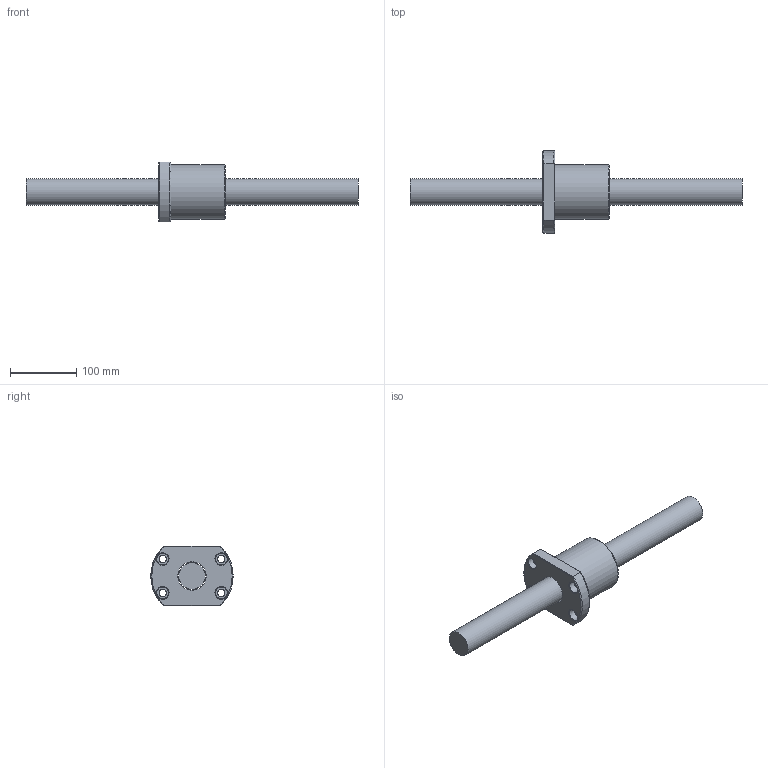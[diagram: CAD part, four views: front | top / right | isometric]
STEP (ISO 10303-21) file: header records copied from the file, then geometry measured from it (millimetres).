
FILE_DESCRIPTION (( 'STEP AP203' ), '1' );
FILE_NAME ('SFV04020D-2.7.step', '2024-05-20T03:39:45', ( '' ), ( '' ), 'SwSTEP 2.0', 'SolidWorks 2022', '' );
FILE_SCHEMA (( 'CONFIG_CONTROL_DESIGN' ));
Length unit declared in the file: millimetre
Products named in the file (1): SFV04020D-2.7
Bounding box: 500 x 124 x 90 mm (x, y, z)
Volume: 1084519 mm3; surface area: 126418.7 mm2
Topology: 2 solids, 2 shells, 54 faces, 140 edges, 91 vertices
Faces by surface type: cylinder 20, plane 16, cone 9, torus 5, bspline 4
Full cylindrical faces by diameter (mm): 4 x1, 7 x5, 11 x4, 17.5 x4, 40 x1, 42.8 x1, 82 x1
Entity records: 3189 total; most frequent: CARTESIAN_POINT 2103, DIRECTION 198, ORIENTED_EDGE 182, EDGE_CURVE 91, AXIS2_PLACEMENT_3D 91, EDGE_LOOP 86, VERTEX_POINT 71, FACE_OUTER_BOUND 64
